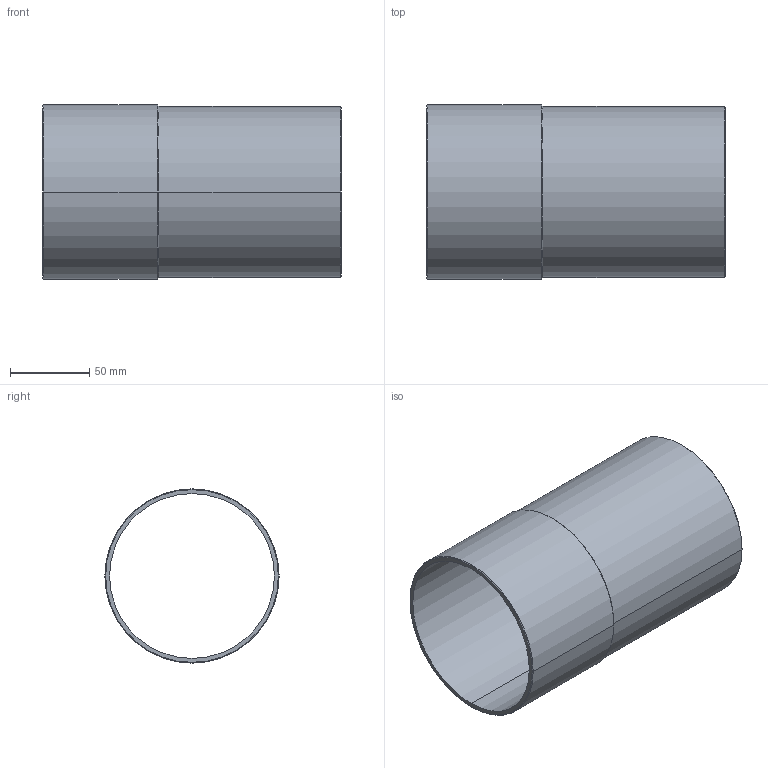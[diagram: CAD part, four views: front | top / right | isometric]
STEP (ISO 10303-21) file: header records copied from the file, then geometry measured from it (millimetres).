
FILE_DESCRIPTION(('CoCreate Modeling STEP Export'),'2;1');
FILE_NAME('C1432 104x108.stp','2015-08-10T12:54:03',(''),(''),'CoCreate Modeling STEP processor for AP214 (Solid Model)','CoCreate Modeling 17.00A 17-Jun-2010 (C) Parametric Technology GmbH','');
FILE_SCHEMA(('AUTOMOTIVE_DESIGN { 1 0 10303 214 1 1 1 1 }'));
Length unit declared in the file: millimetre
Products named in the file (1): C1432114x108
Bounding box: 188.65 x 110 x 110 mm (x, y, z)
Volume: 150432.2 mm3; surface area: 127562.1 mm2
Topology: 1 solids, 1 shells, 16 faces, 35 edges, 21 vertices
Faces by surface type: cone 8, cylinder 6, plane 2
Entity records: 375 total; most frequent: ORIENTED_EDGE 70, CARTESIAN_POINT 54, DIRECTION 52, EDGE_CURVE 35, VERTEX_POINT 21, AXIS2_PLACEMENT_3D 19, EDGE_LOOP 18, FACE_OUTER_BOUND 16
